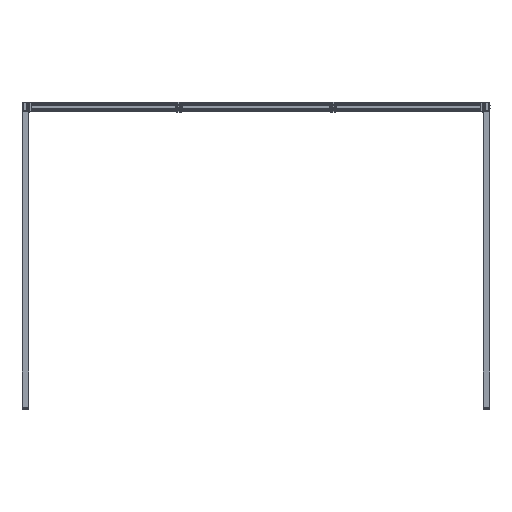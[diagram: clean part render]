
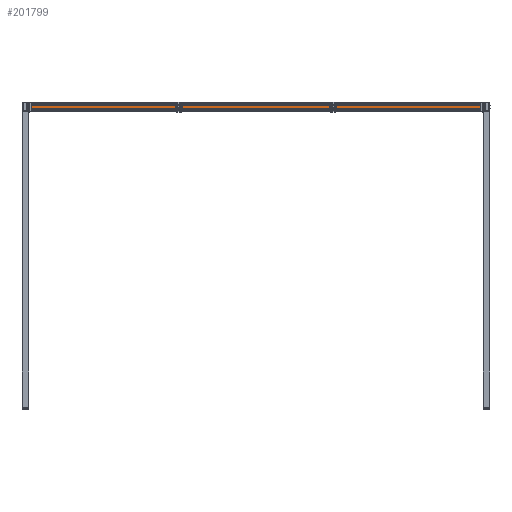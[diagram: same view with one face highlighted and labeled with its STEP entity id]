
A CAD part, front view. The second image highlights one B-rep face of the part: STEP entity #201799.
In plain terms, the highlighted planar face has unit normal (0, -1, 0).
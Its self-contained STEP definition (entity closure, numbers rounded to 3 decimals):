
#13952 = LINE ( 'NONE', #194868, #71274 ) ;
#14990 = CARTESIAN_POINT ( 'NONE',  ( 8588., -6486.5, 371.646 ) ) ;
#22950 = CARTESIAN_POINT ( 'NONE',  ( 4492., -6486.5, 451.784 ) ) ;
#26784 = CARTESIAN_POINT ( 'NONE',  ( 4492., -6486.5, 371.646 ) ) ;
#32647 = CARTESIAN_POINT ( 'NONE',  ( 8588., -6486.5, 455.646 ) ) ;
#35024 = VERTEX_POINT ( 'NONE', #14990 ) ;
#45040 = LINE ( 'NONE', #128981, #169851 ) ;
#58353 = VERTEX_POINT ( 'NONE', #26784 ) ;
#60547 = DIRECTION ( 'NONE',  ( 0., -1., 0. ) ) ;
#61271 = VERTEX_POINT ( 'NONE', #155412 ) ;
#65697 = ORIENTED_EDGE ( 'NONE', *, *, #155148, .T. ) ;
#71274 = VECTOR ( 'NONE', #112996, 1000. ) ;
#76697 = CARTESIAN_POINT ( 'NONE',  ( 6540., -6486.5, 413.646 ) ) ;
#84272 = DIRECTION ( 'NONE',  ( -1., 0., 0. ) ) ;
#87535 = DIRECTION ( 'NONE',  ( 0., 0., -1. ) ) ;
#104504 = VECTOR ( 'NONE', #87535, 1000. ) ;
#106019 = ORIENTED_EDGE ( 'NONE', *, *, #204128, .T. ) ;
#107972 = FACE_OUTER_BOUND ( 'NONE', #126160, .T. ) ;
#112996 = DIRECTION ( 'NONE',  ( 0., 0., 1. ) ) ;
#126160 = EDGE_LOOP ( 'NONE', ( #187445, #106019, #175360, #65697 ) ) ;
#126253 = DIRECTION ( 'NONE',  ( 1., 0., 0. ) ) ;
#128981 = CARTESIAN_POINT ( 'NONE',  ( 8588., -6486.5, 371.646 ) ) ;
#138756 = EDGE_CURVE ( 'NONE', #35024, #58353, #45040, .T. ) ;
#149011 = VECTOR ( 'NONE', #84272, 1000. ) ;
#155148 = EDGE_CURVE ( 'NONE', #61271, #58353, #170476, .T. ) ;
#155412 = CARTESIAN_POINT ( 'NONE',  ( 4492., -6486.5, 455.646 ) ) ;
#159202 = DIRECTION ( 'NONE',  ( -1., 0., 0. ) ) ;
#163813 = CARTESIAN_POINT ( 'NONE',  ( 8588., -6486.5, 455.646 ) ) ;
#165783 = EDGE_CURVE ( 'NONE', #212087, #61271, #198511, .T. ) ;
#169851 = VECTOR ( 'NONE', #159202, 1000. ) ;
#170476 = LINE ( 'NONE', #22950, #104504 ) ;
#173667 = PLANE ( 'NONE',  #201249 ) ;
#175360 = ORIENTED_EDGE ( 'NONE', *, *, #165783, .T. ) ;
#187445 = ORIENTED_EDGE ( 'NONE', *, *, #138756, .F. ) ;
#194868 = CARTESIAN_POINT ( 'NONE',  ( 8588., -6486.5, 451.784 ) ) ;
#198511 = LINE ( 'NONE', #32647, #149011 ) ;
#201249 = AXIS2_PLACEMENT_3D ( 'NONE', #76697, #60547, #126253 ) ;
#201799 = ADVANCED_FACE ( 'NONE', ( #107972 ), #173667, .T. ) ;
#204128 = EDGE_CURVE ( 'NONE', #35024, #212087, #13952, .T. ) ;
#212087 = VERTEX_POINT ( 'NONE', #163813 ) ;
